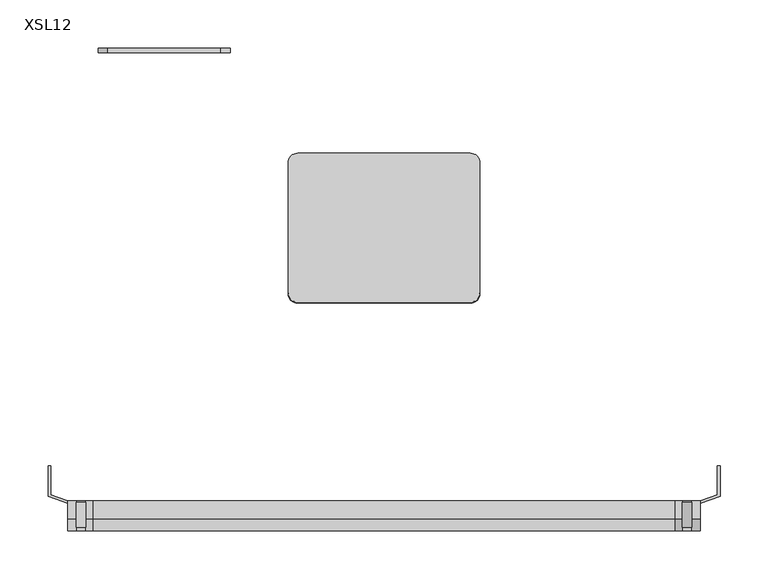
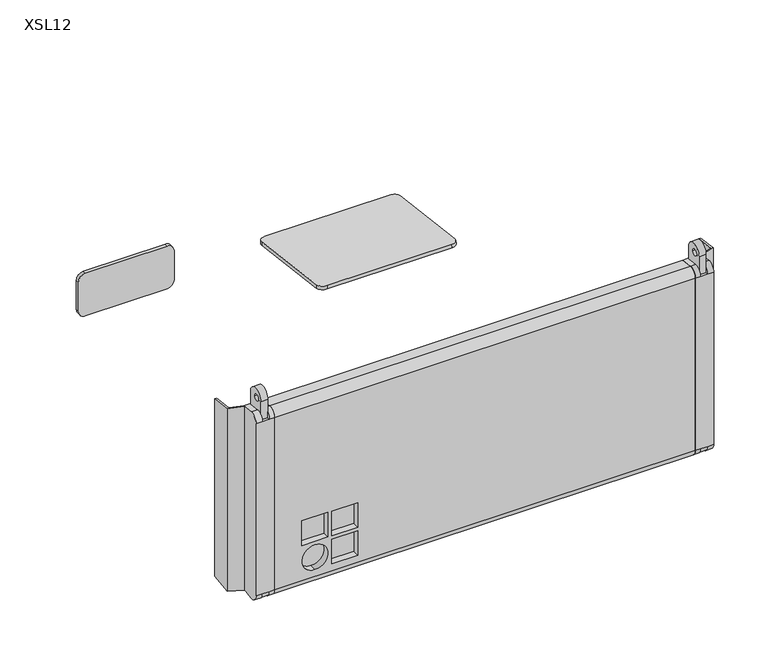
"""IFC4 building model written with IfcOpenShell, lengths in millimetres: proxy geometry, d&b SL-Series XSL : XSL12."""

from ifc_helpers import new_model, si_unit, point, frame, frame_2d, origin, place, context, project, spatial, polyline, circle_curve, trimmed, segment, composite_curve, outline, extrude, faceted_brep, source, transform, mapped, element, save
from ifc_brep_helpers import plane_surface, cylinder_surface, revolved_surface, advanced_brep


def xsl12_576bfbdb(model_context):
    return source(origin(), model_context, "Body", "SolidModel", [
        advanced_brep(
        [(196.8588433, -361.6244027, 137.7034957), (196.8588433, -361.6244027, -124.5717208), (196.8588433, -349.2362136, -135.4837752), (196.8588433, -330.1244027, -133.052445), (196.8588433, -330.1244027, 146.1842209), (196.8588433, -349.2362142, 148.6155502), (189.5, -361.6244027, 137.7034957), (189.5, -349.2362142, 148.6155502), (189.5, -330.1244027, 146.1842209), (189.5, -330.1244027, 137.7034957), (189.5, -330.1244027, -133.052445), (189.5, -349.2362136, -135.4837752), (189.5, -359.7967566, -130.6436171), (189.5, -330.1244027, -130.6436171), (179.5, -361.6244027, 137.7034957), (170.5, -361.6244027, 137.7034957), (170.5, -361.6244027, -124.5717208), (179.5, -361.6244027, -124.5717208), (189.5, -361.6244027, -124.5717208), (179.5, -330.1244027, -130.6436171), (179.5, -330.1244027, -133.052445), (170.5, -330.1244027, -133.052445), (170.5, -330.1244027, 146.1842209), (179.5, -330.1244027, 146.1842209), (179.5, -330.1244027, 137.7034957), (179.5, -359.7967566, -130.6436171), (179.5, -349.2362136, -135.4837752), (179.5, -349.2362142, 148.6155502), (170.5, -349.2362142, 148.6155502), (170.5, -349.2362136, -135.4837752)],
        [
            (0, 1),
            (1, 2, circle_curve(frame((196.8588433, -350.6244027, -124.5717208), z_axis=(1.0, 0.0, 0.0), x_axis=(0.0, 1.0, 0.0)), 11.0)),
            (2, 3),
            (3, 4),
            (4, 5),
            (5, 0, circle_curve(frame((196.8588433, -350.6244027, 137.7034957), z_axis=(1.0, 0.0, 0.0), x_axis=(0.0, 1.0, 0.0)), 11.0)),
            (6, 7, circle_curve(frame((189.5, -350.6244027, 137.7034957), z_axis=(-1.0, 0.0, 0.0), x_axis=(0.0, 1.0, 0.0)), 11.0)),
            (7, 8),
            (8, 9),
            (9, 6),
            (10, 11),
            (11, 12, circle_curve(frame((189.5, -350.6244027, -124.5717208), z_axis=(-1.0, 0.0, 0.0), x_axis=(0.0, 1.0, 0.0)), 11.0)),
            (12, 13),
            (13, 10),
            (0, 6),
            (6, 14),
            (14, 15),
            (15, 16),
            (16, 17),
            (17, 18),
            (18, 1),
            (18, 12, circle_curve(frame((189.5, -350.6244027, -124.5717208), z_axis=(1.0, 0.0, 0.0), x_axis=(0.0, 1.0, 0.0)), 11.0)),
            (11, 2),
            (10, 3),
            (13, 19),
            (19, 20),
            (20, 21),
            (21, 22),
            (22, 23),
            (23, 24),
            (24, 9),
            (8, 4),
            (7, 5),
            (17, 25, circle_curve(frame((179.5, -350.6244027, -124.5717208), z_axis=(1.0, 0.0, 0.0), x_axis=(0.0, 1.0, 0.0)), 11.0)),
            (25, 12),
            (25, 19),
            (24, 14),
            (26, 20),
            (25, 26, circle_curve(frame((179.5, -350.6244027, -124.5717208), z_axis=(1.0, 0.0, 0.0), x_axis=(0.0, 1.0, 0.0)), 11.0)),
            (23, 27),
            (27, 14, circle_curve(frame((179.5, -350.6244027, 137.7034957), z_axis=(1.0, 0.0, 0.0), x_axis=(0.0, 1.0, 0.0)), 11.0)),
            (15, 28, circle_curve(frame((170.5, -350.6244027, 137.7034957), z_axis=(-1.0, 0.0, 0.0), x_axis=(0.0, 1.0, 0.0)), 11.0)),
            (28, 22),
            (21, 29),
            (29, 16, circle_curve(frame((170.5, -350.6244027, -124.5717208), z_axis=(-1.0, 0.0, 0.0), x_axis=(0.0, 1.0, 0.0)), 11.0)),
            (29, 26),
            (28, 27),
        ],
        [
            plane_surface(frame((196.8588433, -361.6244027, -156.4450735), z_axis=(1.0, 0.0, 0.0), x_axis=(0.0, 0.0, -1.0))),
            plane_surface(frame((189.5, -361.6244027, -156.4450735), z_axis=(-1.0, 0.0, 0.0), x_axis=(0.0, 0.0, 1.0))),
            plane_surface(frame((196.8588433, -361.6244027, 137.7034957), z_axis=(0.0, -1.0, 0.0), x_axis=(-1.0, 0.0, 0.0))),
            cylinder_surface(frame((189.5, -350.6244027, -124.5717208), z_axis=(1.0, 0.0, 0.0), x_axis=(0.0, 1.0, 0.0)), 11.0),
            plane_surface(frame((196.8588433, -349.2362136, -135.4837752), z_axis=(0.0, 0.12619900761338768, -0.9920049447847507), x_axis=(-1.0, 0.0, 0.0))),
            plane_surface(frame((196.8588433, -330.1244027, -133.052445), z_axis=(0.0, 1.0, 0.0), x_axis=(-1.0, 0.0, 0.0))),
            plane_surface(frame((196.8588433, -330.1244027, 146.1842209), z_axis=(0.0, 0.1261989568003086, 0.9920049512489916), x_axis=(-1.0, 0.0, 0.0))),
            cylinder_surface(frame((189.5, -350.6244027, 137.7034957), z_axis=(1.0, 0.0, 0.0), x_axis=(0.0, 1.0, 0.0)), 11.0),
            cylinder_surface(frame((179.5, -350.6244027, -124.5717208), z_axis=(1.0, 0.0, 0.0), x_axis=(0.0, 1.0, 0.0)), 11.0),
            plane_surface(frame((189.5, -359.7967566, -130.6436171), z_axis=(0.0, 0.0, -1.0), x_axis=(-1.0, 0.0, 0.0))),
            plane_surface(frame((189.5, -330.1244027, 137.7034957), z_axis=(0.0, 0.0, 1.0), x_axis=(-1.0, 0.0, 0.0))),
            plane_surface(frame((179.5, -361.6244027, -156.4450735), z_axis=(1.0, 0.0, 0.0), x_axis=(0.0, 0.0, -1.0))),
            plane_surface(frame((170.5, -361.6244027, -156.4450735), z_axis=(-1.0, 0.0, 0.0), x_axis=(0.0, 0.0, 1.0))),
            cylinder_surface(frame((170.5, -350.6244027, -124.5717208), z_axis=(1.0, 0.0, 0.0), x_axis=(0.0, 1.0, 0.0)), 11.0),
            plane_surface(frame((179.5, -349.2362136, -135.4837752), z_axis=(0.0, 0.12619900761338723, -0.9920049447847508), x_axis=(-1.0, 0.0, 0.0))),
            plane_surface(frame((179.5, -330.1244027, 146.1842209), z_axis=(0.0, 0.1261989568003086, 0.9920049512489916), x_axis=(-1.0, 0.0, 0.0))),
            cylinder_surface(frame((170.5, -350.6244027, 137.7034957), z_axis=(1.0, 0.0, 0.0), x_axis=(0.0, 1.0, 0.0)), 11.0),
        ],
        [
            (0, [[1, 2, 3, 4, 5, 6]]),
            (1, [[7, 8, 9, 10]]),
            (1, [[11, 12, 13, 14]]),
            (2, [[-1, 15, 16, 17, 18, 19, 20, 21]]),
            (3, [[-2, -21, 22, -12, 23]]),
            (4, [[-3, -23, -11, 24]]),
            (5, [[-4, -24, -14, 25, 26, 27, 28, 29, 30, 31, -9, 32]]),
            (6, [[-5, -32, -8, 33]]),
            (7, [[-6, -33, -7, -15]]),
            (8, [[-20, 34, 35, -22]]),
            (9, [[-35, 36, -25, -13]]),
            (10, [[-16, -10, -31, 37]]),
            (11, [[38, -26, -36, 39]]),
            (11, [[40, 41, -37, -30]]),
            (12, [[42, 43, -28, 44, 45, -18]]),
            (13, [[-45, 46, -39, -34, -19]]),
            (14, [[-38, -46, -44, -27]]),
            (15, [[-40, -29, -43, 47]]),
            (16, [[-41, -47, -42, -17]]),
        ],
    ),
        advanced_brep(
        [(803.1411567, -361.6244027, 137.7034957), (803.1411567, -349.2362142, 148.6155502), (803.1411567, -330.1244027, 146.1842209), (803.1411567, -330.1244027, -133.052445), (803.1411567, -349.2362136, -135.4837752), (803.1411567, -361.6244027, -124.5717208), (810.5, -349.2362136, -135.4837752), (810.5, -330.1244027, -133.052445), (810.5, -330.1244027, -130.6436171), (810.5, -359.7967566, -130.6436171), (810.5, -330.1244027, 146.1842209), (810.5, -349.2362142, 148.6155502), (810.5, -361.6244027, 137.7034957), (810.5, -330.1244027, 137.7034957), (810.5, -361.6244027, -124.5717208), (820.5, -361.6244027, -124.5717208), (829.5, -361.6244027, -124.5717208), (829.5, -361.6244027, 137.7034957), (820.5, -361.6244027, 137.7034957), (820.5, -330.1244027, 137.7034957), (820.5, -330.1244027, 146.1842209), (829.5, -330.1244027, 146.1842209), (829.5, -330.1244027, -133.052445), (820.5, -330.1244027, -133.052445), (820.5, -330.1244027, -130.6436171), (820.5, -359.7967566, -130.6436171), (820.5, -349.2362142, 148.6155502), (820.5, -349.2362136, -135.4837752), (829.5, -349.2362136, -135.4837752), (829.5, -349.2362142, 148.6155502)],
        [
            (0, 1, circle_curve(frame((803.1411567, -350.6244027, 137.7034957), z_axis=(-1.0, 0.0, 0.0), x_axis=(0.0, 1.0, 0.0)), 11.0)),
            (1, 2),
            (2, 3),
            (3, 4),
            (4, 5, circle_curve(frame((803.1411567, -350.6244027, -124.5717208), z_axis=(-1.0, 0.0, 0.0), x_axis=(0.0, 1.0, 0.0)), 11.0)),
            (5, 0),
            (6, 7),
            (7, 8),
            (8, 9),
            (9, 6, circle_curve(frame((810.5, -350.6244027, -124.5717208), z_axis=(1.0, 0.0, 0.0), x_axis=(0.0, 1.0, 0.0)), 11.0)),
            (10, 11),
            (11, 12, circle_curve(frame((810.5, -350.6244027, 137.7034957), z_axis=(1.0, 0.0, 0.0), x_axis=(0.0, 1.0, 0.0)), 11.0)),
            (12, 13),
            (13, 10),
            (5, 14),
            (14, 15),
            (15, 16),
            (16, 17),
            (17, 18),
            (18, 12),
            (12, 0),
            (4, 6),
            (9, 14, circle_curve(frame((810.5, -350.6244027, -124.5717208), z_axis=(-1.0, 0.0, 0.0), x_axis=(0.0, 1.0, 0.0)), 11.0)),
            (3, 7),
            (2, 10),
            (13, 19),
            (19, 20),
            (20, 21),
            (21, 22),
            (22, 23),
            (23, 24),
            (24, 8),
            (1, 11),
            (24, 25),
            (25, 9),
            (25, 15, circle_curve(frame((820.5, -350.6244027, -124.5717208), z_axis=(-1.0, 0.0, 0.0), x_axis=(0.0, 1.0, 0.0)), 11.0)),
            (18, 19),
            (18, 26, circle_curve(frame((820.5, -350.6244027, 137.7034957), z_axis=(-1.0, 0.0, 0.0), x_axis=(0.0, 1.0, 0.0)), 11.0)),
            (26, 20),
            (23, 27),
            (27, 25, circle_curve(frame((820.5, -350.6244027, -124.5717208), z_axis=(-1.0, 0.0, 0.0), x_axis=(0.0, 1.0, 0.0)), 11.0)),
            (16, 28, circle_curve(frame((829.5, -350.6244027, -124.5717208), z_axis=(1.0, 0.0, 0.0), x_axis=(0.0, 1.0, 0.0)), 11.0)),
            (28, 22),
            (21, 29),
            (29, 17, circle_curve(frame((829.5, -350.6244027, 137.7034957), z_axis=(1.0, 0.0, 0.0), x_axis=(0.0, 1.0, 0.0)), 11.0)),
            (27, 28),
            (26, 29),
        ],
        [
            plane_surface(frame((803.1411567, -339.6244027, 137.7034957), z_axis=(-1.0, 0.0, 0.0), x_axis=(0.0, 0.0, -1.0))),
            plane_surface(frame((810.5, -339.6244027, 137.7034957), z_axis=(1.0, 0.0, 0.0), x_axis=(0.0, 0.0, 1.0))),
            plane_surface(frame((803.1411567, -361.6244027, -124.5717208), z_axis=(0.0, -1.0, 0.0), x_axis=(1.0, 0.0, 0.0))),
            cylinder_surface(frame((810.5, -350.6244027, -124.5717208), z_axis=(-1.0, 0.0, 0.0), x_axis=(0.0, 1.0, 0.0)), 11.0),
            plane_surface(frame((803.1411567, -330.1244027, -133.052445), z_axis=(0.0, 0.12619900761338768, -0.9920049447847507), x_axis=(1.0, 0.0, 0.0))),
            plane_surface(frame((803.1411567, -330.1244027, 146.1842209), z_axis=(0.0, 1.0, 0.0), x_axis=(1.0, 0.0, 0.0))),
            plane_surface(frame((803.1411567, -349.2362142, 148.6155502), z_axis=(0.0, 0.1261989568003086, 0.9920049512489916), x_axis=(1.0, 0.0, 0.0))),
            cylinder_surface(frame((810.5, -350.6244027, 137.7034957), z_axis=(-1.0, 0.0, 0.0), x_axis=(0.0, 1.0, 0.0)), 11.0),
            plane_surface(frame((810.5, -330.1244027, -130.6436171), z_axis=(0.0, 0.0, -1.0), x_axis=(1.0, 0.0, 0.0))),
            cylinder_surface(frame((820.5, -350.6244027, -124.5717208), z_axis=(-1.0, 0.0, 0.0), x_axis=(0.0, 1.0, 0.0)), 11.0),
            plane_surface(frame((810.5, -361.6244027, 137.7034957), z_axis=(0.0, 0.0, 1.0), x_axis=(1.0, 0.0, 0.0))),
            plane_surface(frame((820.5, -339.6244027, 137.7034957), z_axis=(-1.0, 0.0, 0.0), x_axis=(0.0, 0.0, -1.0))),
            plane_surface(frame((829.5, -339.6244027, 137.7034957), z_axis=(1.0, 0.0, 0.0), x_axis=(0.0, 0.0, 1.0))),
            cylinder_surface(frame((829.5, -350.6244027, -124.5717208), z_axis=(-1.0, 0.0, 0.0), x_axis=(0.0, 1.0, 0.0)), 11.0),
            plane_surface(frame((820.5, -330.1244027, -133.052445), z_axis=(0.0, 0.12619900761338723, -0.9920049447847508), x_axis=(1.0, 0.0, 0.0))),
            plane_surface(frame((820.5, -349.2362142, 148.6155502), z_axis=(0.0, 0.1261989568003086, 0.9920049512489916), x_axis=(1.0, 0.0, 0.0))),
            cylinder_surface(frame((829.5, -350.6244027, 137.7034957), z_axis=(-1.0, 0.0, 0.0), x_axis=(0.0, 1.0, 0.0)), 11.0),
        ],
        [
            (0, [[1, 2, 3, 4, 5, 6]]),
            (1, [[7, 8, 9, 10]]),
            (1, [[11, 12, 13, 14]]),
            (2, [[-6, 15, 16, 17, 18, 19, 20, 21]]),
            (3, [[-5, 22, -10, 23, -15]]),
            (4, [[-4, 24, -7, -22]]),
            (5, [[-3, 25, -14, 26, 27, 28, 29, 30, 31, 32, -8, -24]]),
            (6, [[-2, 33, -11, -25]]),
            (7, [[-1, -21, -12, -33]]),
            (8, [[-32, 34, 35, -9]]),
            (9, [[-35, 36, -16, -23]]),
            (10, [[-26, -13, -20, 37]]),
            (11, [[38, 39, -27, -37]]),
            (11, [[40, 41, -34, -31]]),
            (12, [[-18, 42, 43, -29, 44, 45]]),
            (13, [[-42, -17, -36, -41, 46]]),
            (14, [[-40, -30, -43, -46]]),
            (15, [[-39, 47, -44, -28]]),
            (16, [[-38, -19, -45, -47]]),
        ],
    ),
        extrude(outline(composite_curve([segment(polyline([(-357.9244027, 137.7034957), (-357.9244027, 165.7)]), True, "CONTINUOUS"), segment(trimmed(circle_curve(frame_2d((-344.9744027, 165.7)), 12.95), [point((-357.9244027, 165.7))], [point((-332.0244027, 165.7))], False, "CARTESIAN"), True, "CONTINUOUS"), segment(polyline([(-332.0244027, 165.7), (-332.0244027, 137.7034957), (-357.9244027, 137.7034957)]), True, "CONTINUOUS")], self_intersect=False), holes=[composite_curve([segment(trimmed(circle_curve(frame_2d((-347.1244027, 165.7)), 4.65), [point((-351.7744027, 165.7))], [point((-342.4744027, 165.7))], True, "CARTESIAN"), True, "CONTINUOUS"), segment(trimmed(circle_curve(frame_2d((-347.1244027, 165.7)), 4.65), [point((-342.4744027, 165.7))], [point((-351.7744027, 165.7))], True, "CARTESIAN"), True, "CONTINUOUS")], self_intersect=False)]), frame((810.5, 0.0, 0.0), z_axis=(1.0, 0.0, 0.0), x_axis=(0.0, 1.0, 0.0)), (0.0, 0.0, 1.0), 10.0),
        advanced_brep(
        [(803.1411567, -361.6244027, 137.7034957), (803.1411567, -361.6244027, -124.5717208), (803.1411567, -349.2362136, -135.4837752), (803.1411567, -330.1244027, -133.052445), (803.1411567, -330.1244027, 146.1842209), (803.1411567, -349.2362142, 148.6155502), (196.8588433, -361.6244027, 137.7034957), (196.8588433, -349.2362142, 148.6155502), (196.8588433, -330.1244027, 146.1842209), (196.8588433, -330.1244027, -133.052445), (196.8588433, -349.2362136, -135.4837752), (196.8588433, -361.6244027, -124.5717208), (273.9761951, -351.6244027, -33.5096005), (236.4761951, -351.6244027, -33.5096005), (236.4761951, -351.6244027, -71.0096005), (273.9761951, -351.6244027, -71.0096005), (316.833338, -351.6244027, -33.5096005), (279.333338, -351.6244027, -33.5096005), (279.333338, -351.6244027, -71.0096005), (316.833338, -351.6244027, -71.0096005), (316.833338, -351.6244027, -76.3667433), (279.333338, -351.6244027, -76.3667433), (279.333338, -351.6244027, -113.8667433), (316.833338, -351.6244027, -113.8667433), (255.2261951, -351.6244027, -76.3667433), (255.2261951, -351.6244027, -113.8667433), (273.9761951, -361.6244027, -71.0096005), (273.9761951, -361.6244027, -33.5096005), (236.4761951, -361.6244027, -71.0096005), (236.4761951, -361.6244027, -33.5096005), (316.833338, -361.6244027, -71.0096005), (316.833338, -361.6244027, -33.5096005), (279.333338, -361.6244027, -71.0096005), (279.333338, -361.6244027, -33.5096005), (316.833338, -361.6244027, -113.8667433), (316.833338, -361.6244027, -76.3667433), (279.333338, -361.6244027, -113.8667433), (279.333338, -361.6244027, -76.3667433), (255.2261951, -361.6244027, -113.8667433), (255.2261951, -361.6244027, -76.3667433)],
        [
            (0, 1),
            (1, 2, circle_curve(frame((803.1411567, -350.6244027, -124.5717208), z_axis=(1.0, 0.0, 0.0), x_axis=(0.0, 1.0, 0.0)), 11.0)),
            (2, 3),
            (3, 4),
            (4, 5),
            (5, 0, circle_curve(frame((803.1411567, -350.6244027, 137.7034957), z_axis=(1.0, 0.0, 0.0), x_axis=(0.0, 1.0, 0.0)), 11.0)),
            (6, 7, circle_curve(frame((196.8588433, -350.6244027, 137.7034957), z_axis=(-1.0, 0.0, 0.0), x_axis=(0.0, 1.0, 0.0)), 11.0)),
            (7, 8),
            (8, 9),
            (9, 10),
            (10, 11, circle_curve(frame((196.8588433, -350.6244027, -124.5717208), z_axis=(-1.0, 0.0, 0.0), x_axis=(0.0, 1.0, 0.0)), 11.0)),
            (11, 6),
            (12, 13),
            (13, 14),
            (14, 15),
            (15, 12),
            (16, 17),
            (17, 18),
            (18, 19),
            (19, 16),
            (20, 21),
            (21, 22),
            (22, 23),
            (23, 20),
            (24, 25, circle_curve(frame((255.2261951, -351.6244027, -95.1167433), z_axis=(0.0, -1.0, 0.0), x_axis=(0.0, 0.0, -1.0)), 18.75)),
            (25, 24, circle_curve(frame((255.2261951, -351.6244027, -95.1167433), z_axis=(0.0, -1.0, 0.0), x_axis=(0.0, 0.0, -1.0)), 18.75)),
            (15, 26),
            (26, 27),
            (27, 12),
            (14, 28),
            (28, 26),
            (13, 29),
            (29, 28),
            (27, 29),
            (19, 30),
            (30, 31),
            (31, 16),
            (18, 32),
            (32, 30),
            (17, 33),
            (33, 32),
            (31, 33),
            (23, 34),
            (34, 35),
            (35, 20),
            (22, 36),
            (36, 34),
            (21, 37),
            (37, 36),
            (35, 37),
            (25, 38),
            (38, 39, circle_curve(frame((255.2261951, -361.6244027, -95.1167433), z_axis=(0.0, -1.0, 0.0), x_axis=(0.0, 0.0, -1.0)), 18.75)),
            (39, 24),
            (39, 38, circle_curve(frame((255.2261951, -361.6244027, -95.1167433), z_axis=(0.0, -1.0, 0.0), x_axis=(0.0, 0.0, -1.0)), 18.75)),
            (0, 6),
            (11, 1),
            (10, 2),
            (9, 3),
            (8, 4),
            (7, 5),
        ],
        [
            plane_surface(frame((803.1411567, -361.6244027, -156.4450735), z_axis=(1.0, 0.0, 0.0), x_axis=(0.0, 0.0, -1.0))),
            plane_surface(frame((196.8588433, -361.6244027, -156.4450735), z_axis=(-1.0, 0.0, 0.0), x_axis=(0.0, 0.0, 1.0))),
            plane_surface(frame((273.9761951, -351.6244027, -34.7596005), z_axis=(0.0, -1.0, 0.0), x_axis=(0.0, 0.0, -1.0))),
            plane_surface(frame((273.9761951, -351.6244027, -33.5096005), z_axis=(-1.0, 0.0, 0.0), x_axis=(0.0, -1.0, 0.0))),
            plane_surface(frame((273.9761951, -351.6244027, -71.0096005), z_axis=(0.0, 0.0, 1.0), x_axis=(0.0, -1.0, 0.0))),
            plane_surface(frame((236.4761951, -351.6244027, -71.0096005), z_axis=(1.0, 0.0, 0.0), x_axis=(0.0, -1.0, 0.0))),
            plane_surface(frame((236.4761951, -351.6244027, -33.5096005), z_axis=(0.0, 0.0, -1.0), x_axis=(0.0, -1.0, 0.0))),
            plane_surface(frame((316.833338, -351.6244027, -33.5096005), z_axis=(-1.0, 0.0, 0.0), x_axis=(0.0, -1.0, 0.0))),
            plane_surface(frame((316.833338, -351.6244027, -71.0096005), z_axis=(0.0, 0.0, 1.0), x_axis=(0.0, -1.0, 0.0))),
            plane_surface(frame((279.333338, -351.6244027, -71.0096005), z_axis=(1.0, 0.0, 0.0), x_axis=(0.0, -1.0, 0.0))),
            plane_surface(frame((279.333338, -351.6244027, -33.5096005), z_axis=(0.0, 0.0, -1.0), x_axis=(0.0, -1.0, 0.0))),
            plane_surface(frame((316.833338, -351.6244027, -76.3667433), z_axis=(-1.0, 0.0, 0.0), x_axis=(0.0, -1.0, 0.0))),
            plane_surface(frame((316.833338, -351.6244027, -113.8667433), z_axis=(0.0, 0.0, 1.0), x_axis=(0.0, -1.0, 0.0))),
            plane_surface(frame((279.333338, -351.6244027, -113.8667433), z_axis=(1.0, 0.0, 0.0), x_axis=(0.0, -1.0, 0.0))),
            plane_surface(frame((279.333338, -351.6244027, -76.3667433), z_axis=(0.0, 0.0, -1.0), x_axis=(0.0, -1.0, 0.0))),
            revolved_surface(polyline([(255.2261951, -351.6244027, -113.8667433), (255.2261951, -361.6244027, -113.8667433)]), (255.2261951, -361.6244027, -95.1167433), (0.0, 1.0, 0.0)),
            plane_surface(frame((803.1411567, -361.6244027, 137.7034957), z_axis=(0.0, -1.0, 0.0), x_axis=(-1.0, 0.0, 0.0))),
            cylinder_surface(frame((196.8588433, -350.6244027, -124.5717208), z_axis=(1.0, 0.0, 0.0), x_axis=(0.0, 1.0, 0.0)), 11.0),
            plane_surface(frame((803.1411567, -349.2362136, -135.4837752), z_axis=(0.0, 0.12619900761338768, -0.9920049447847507), x_axis=(-1.0, 0.0, 0.0))),
            plane_surface(frame((803.1411567, -330.1244027, -133.052445), z_axis=(0.0, 1.0, 0.0), x_axis=(-1.0, 0.0, 0.0))),
            plane_surface(frame((803.1411567, -330.1244027, 146.1842209), z_axis=(0.0, 0.1261989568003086, 0.9920049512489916), x_axis=(-1.0, 0.0, 0.0))),
            cylinder_surface(frame((196.8588433, -350.6244027, 137.7034957), z_axis=(1.0, 0.0, 0.0), x_axis=(0.0, 1.0, 0.0)), 11.0),
        ],
        [
            (0, [[1, 2, 3, 4, 5, 6]]),
            (1, [[7, 8, 9, 10, 11, 12]]),
            (2, [[13, 14, 15, 16]]),
            (2, [[17, 18, 19, 20]]),
            (2, [[21, 22, 23, 24]]),
            (2, [[25, 26]]),
            (3, [[-16, 27, 28, 29]]),
            (4, [[-15, 30, 31, -27]]),
            (5, [[-14, 32, 33, -30]]),
            (6, [[-13, -29, 34, -32]]),
            (7, [[-20, 35, 36, 37]]),
            (8, [[-19, 38, 39, -35]]),
            (9, [[-18, 40, 41, -38]]),
            (10, [[-17, -37, 42, -40]]),
            (11, [[-24, 43, 44, 45]]),
            (12, [[-23, 46, 47, -43]]),
            (13, [[-22, 48, 49, -46]]),
            (14, [[-21, -45, 50, -48]]),
            (15, [[-26, 51, 52, 53]]),
            (15, [[-25, -53, 54, -51]]),
            (16, [[-1, 55, -12, 56], [-28, -31, -33, -34], [-36, -39, -41, -42], [-44, -47, -49, -50], [-52, -54]]),
            (17, [[-2, -56, -11, 57]]),
            (18, [[-3, -57, -10, 58]]),
            (19, [[-4, -58, -9, 59]]),
            (20, [[-5, -59, -8, 60]]),
            (21, [[-6, -60, -7, -55]]),
        ],
    ),
        extrude(outline(composite_curve([segment(polyline([(-357.9244027, 137.7034957), (-357.9244027, 165.7)]), True, "CONTINUOUS"), segment(trimmed(circle_curve(frame_2d((-344.9744027, 165.7)), 12.95), [point((-357.9244027, 165.7))], [point((-332.0244027, 165.7))], False, "CARTESIAN"), True, "CONTINUOUS"), segment(polyline([(-332.0244027, 165.7), (-332.0244027, 137.7034957), (-357.9244027, 137.7034957)]), True, "CONTINUOUS")], self_intersect=False), holes=[composite_curve([segment(trimmed(circle_curve(frame_2d((-347.1244027, 165.7)), 4.65), [point((-351.7744027, 165.7))], [point((-342.4744027, 165.7))], True, "CARTESIAN"), True, "CONTINUOUS"), segment(trimmed(circle_curve(frame_2d((-347.1244027, 165.7)), 4.65), [point((-342.4744027, 165.7))], [point((-351.7744027, 165.7))], True, "CARTESIAN"), True, "CONTINUOUS")], self_intersect=False)]), frame((179.5, 0.0, 0.0), z_axis=(1.0, 0.0, 0.0), x_axis=(0.0, 1.0, 0.0)), (0.0, 0.0, 1.0), 10.0),
        faceted_brep([(847.0, -294.0371274, 141.5933401), (847.0, -294.0371274, -128.4615623), (847.0, -323.849354, -132.2541577), (847.0, -323.849354, 145.3859339), (829.5, -330.2188331, -133.0644581), (829.5, -330.2188331, 146.1962339), (829.5, -332.8792775, -133.4029095), (829.5, -332.8792775, 146.5346852), (850.0, -325.4178877, 145.5854766), (850.0, -325.4178877, -132.4537005), (850.0, -294.0371274, -128.4615623), (850.0, -294.0371274, 141.5933401)], [[[0, 1, 2, 3]], [[3, 2, 4, 5]], [[5, 4, 6, 7]], [[8, 9, 10, 11]], [[1, 0, 11, 10]], [[9, 8, 7, 6]], [[0, 3, 5, 7, 8, 11]], [[2, 1, 10, 9, 6, 4]]]),
        faceted_brep([(153.0, -294.0371274, 141.5933401), (153.0, -294.0371274, -128.4615623), (150.0, -294.0371274, -128.4615623), (150.0, -294.0371274, 141.5933401), (150.0, -325.4178877, -132.4537005), (150.0, -325.4178877, 145.5854766), (170.5, -332.8792775, -133.4029095), (170.5, -332.8792775, 146.5346852), (170.5, -330.2188331, -133.0644581), (170.5, -330.2188331, 146.1962339), (153.0, -323.849354, -132.2541577), (153.0, -323.849354, 145.3859339)], [[[0, 1, 2, 3]], [[3, 2, 4, 5]], [[5, 4, 6, 7]], [[7, 6, 8, 9]], [[9, 8, 10, 11]], [[1, 0, 11, 10]], [[0, 3, 5, 7, 9, 11]], [[2, 1, 10, 8, 6, 4]]]),
        extrude(outline(composite_curve([segment(trimmed(circle_curve(frame_2d((-5.0, 212.3427727)), 10.0), [point((-5.0, 202.3427727))], [point((-15.0, 212.3427727))], False, "CARTESIAN"), True, "CONTINUOUS"), segment(polyline([(-15.0, 212.3427727), (-15.0, 330.0)]), True, "CONTINUOUS"), segment(trimmed(circle_curve(frame_2d((-5.0, 330.0)), 10.0), [point((-15.0, 330.0))], [point((-5.0, 340.0))], False, "CARTESIAN"), True, "CONTINUOUS"), segment(polyline([(-5.0, 340.0), (40.0, 340.0)]), True, "CONTINUOUS"), segment(trimmed(circle_curve(frame_2d((40.0, 330.0)), 10.0), [point((40.0, 340.0))], [point((50.0, 330.0))], False, "CARTESIAN"), True, "CONTINUOUS"), segment(polyline([(50.0, 330.0), (50.0, 212.3427727)]), True, "CONTINUOUS"), segment(trimmed(circle_curve(frame_2d((40.0, 212.3427727)), 10.0), [point((50.0, 212.3427727))], [point((40.0, 202.3427727))], False, "CARTESIAN"), True, "CONTINUOUS"), segment(polyline([(40.0, 202.3427727), (-5.0, 202.3427727)]), True, "CONTINUOUS")], self_intersect=False)), frame((0.0, 136.8755973, 0.0), z_axis=(0.0, 1.0, 0.0), x_axis=(0.0, 0.0, 1.0)), (0.0, 0.0, 1.0), 5.0),
        extrude(outline(composite_curve([segment(polyline([(0.0, -20.0), (-179.7207032, -20.0)]), True, "CONTINUOUS"), segment(trimmed(circle_curve(frame_2d((-179.7207032, -10.0)), 10.0), [point((-179.7207032, -20.0))], [point((-189.7207032, -10.0))], False, "CARTESIAN"), True, "CONTINUOUS"), segment(polyline([(-189.7207032, -10.0), (-189.7207032, 126.8564608)]), True, "CONTINUOUS"), segment(trimmed(circle_curve(frame_2d((-179.7207032, 126.8564608)), 10.0), [point((-189.7207032, 126.8564608))], [point((-179.7207032, 136.8564608))], False, "CARTESIAN"), True, "CONTINUOUS"), segment(polyline([(-179.7207032, 136.8564608), (0.0, 136.8564608)]), True, "CONTINUOUS"), segment(trimmed(circle_curve(frame_2d((0.0, 126.8564608)), 10.0), [point((0.0, 136.8564608))], [point((10.0, 126.8564608))], False, "CARTESIAN"), True, "CONTINUOUS"), segment(polyline([(10.0, 126.8564608), (10.0, -10.0)]), True, "CONTINUOUS"), segment(trimmed(circle_curve(frame_2d((0.0, -10.0)), 10.0), [point((10.0, -10.0))], [point((0.0, -20.0))], False, "CARTESIAN"), True, "CONTINUOUS")], self_intersect=False)), frame((589.8603516, -104.2360257, 112.4072952), z_axis=(0.0, 0.12619895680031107, 0.9920049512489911), x_axis=(1.0, 0.0, 0.0)), (0.0, 0.0, 1.0), 5.0),
    ])


if __name__ == "__main__":
    model = new_model("IFC4")
    model_context = context("Model", 3, world=origin())
    ifc_project = project(units=[si_unit("LENGTHUNIT", "METRE", prefix="MILLI")], contexts=[model_context])
    site = spatial("IfcSite", under=ifc_project)
    building = spatial("IfcBuilding", under=site)
    placement = place(None, origin())
    xsl12_shape = xsl12_576bfbdb(model_context)
    element("IfcBuildingElementProxy", 1, Name="d&b SL-Series XSL : XSL12", ObjectType="d&b SL-Series XSL : XSL12", at=placement, inside=building, context=model_context, shape_type="MappedRepresentation", body=[
        mapped(xsl12_shape, transform((0.0, 0.0, 0.0), x_axis=(1.0, 0.0, 0.0), y_axis=(0.0, 1.0, 0.0), z_axis=(0.0, 0.0, 1.0))),
    ])
    save(model, "model.ifc")
